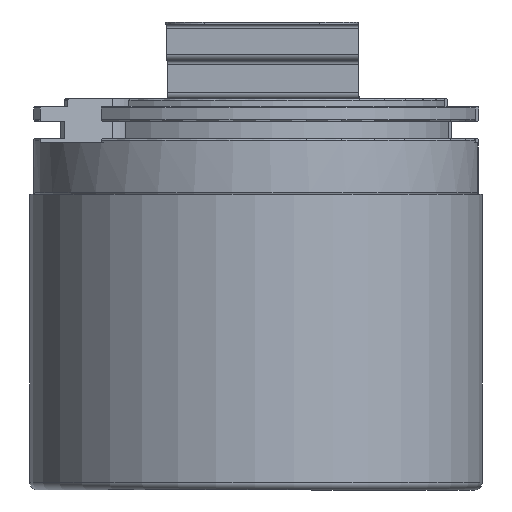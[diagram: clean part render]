
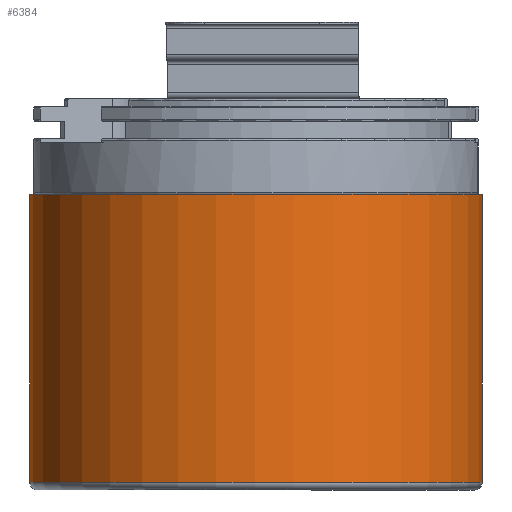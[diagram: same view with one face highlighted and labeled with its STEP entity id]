
A CAD part, front view. The second image highlights one B-rep face of the part: STEP entity #6384.
In plain terms, the highlighted cylindrical face has radius 29.455 mm (diameter 58.91 mm), a partial arc.
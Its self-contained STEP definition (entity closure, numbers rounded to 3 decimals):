
#1200 = ORIENTED_EDGE ( 'NONE', *, *, #7088, .T. ) ;
#1405 = ORIENTED_EDGE ( 'NONE', *, *, #6314, .T. ) ;
#2173 = DIRECTION ( 'NONE',  ( 0., 0., 1. ) ) ;
#2420 = CARTESIAN_POINT ( 'NONE',  ( 30.597, -0.172, -12.45 ) ) ;
#3368 = CARTESIAN_POINT ( 'NONE',  ( 1.142, -0.061, -50.95 ) ) ;
#3384 = VECTOR ( 'NONE', #3809, 1000. ) ;
#3771 = CARTESIAN_POINT ( 'NONE',  ( -28.313, 0.05, -12.45 ) ) ;
#3809 = DIRECTION ( 'NONE',  ( 0., 0., 1. ) ) ;
#3886 = CIRCLE ( 'NONE', #14762, 29.455 ) ;
#3907 = VERTEX_POINT ( 'NONE', #4503 ) ;
#4503 = CARTESIAN_POINT ( 'NONE',  ( 30.597, -0.172, -49.95 ) ) ;
#4828 = VERTEX_POINT ( 'NONE', #2420 ) ;
#5127 = CARTESIAN_POINT ( 'NONE',  ( 30.597, -0.172, -50.95 ) ) ;
#6314 = EDGE_CURVE ( 'NONE', #11254, #3907, #13866, .T. ) ;
#6384 = ADVANCED_FACE ( 'NONE', ( #14051 ), #7524, .T. ) ;
#6652 = LINE ( 'NONE', #7658, #3384 ) ;
#6904 = DIRECTION ( 'NONE',  ( -1., 0.004, 0. ) ) ;
#7088 = EDGE_CURVE ( 'NONE', #3907, #4828, #14409, .T. ) ;
#7524 = CYLINDRICAL_SURFACE ( 'NONE', #15759, 29.455 ) ;
#7658 = CARTESIAN_POINT ( 'NONE',  ( -28.313, 0.05, -50.95 ) ) ;
#8184 = CARTESIAN_POINT ( 'NONE',  ( 1.142, -0.061, -49.95 ) ) ;
#8282 = DIRECTION ( 'NONE',  ( 0., 0., 1. ) ) ;
#9419 = DIRECTION ( 'NONE',  ( 0., 0., 1. ) ) ;
#9586 = DIRECTION ( 'NONE',  ( -1., 0.004, 0. ) ) ;
#9668 = EDGE_CURVE ( 'NONE', #10850, #4828, #3886, .T. ) ;
#9731 = DIRECTION ( 'NONE',  ( -1., 0.004, 0. ) ) ;
#9964 = DIRECTION ( 'NONE',  ( 0., 0., 1. ) ) ;
#10012 = ORIENTED_EDGE ( 'NONE', *, *, #14243, .F. ) ;
#10516 = AXIS2_PLACEMENT_3D ( 'NONE', #8184, #2173, #6904 ) ;
#10564 = VECTOR ( 'NONE', #9964, 1000. ) ;
#10850 = VERTEX_POINT ( 'NONE', #3771 ) ;
#11254 = VERTEX_POINT ( 'NONE', #15527 ) ;
#11388 = ORIENTED_EDGE ( 'NONE', *, *, #9668, .F. ) ;
#11604 = EDGE_LOOP ( 'NONE', ( #1405, #1200, #11388, #10012 ) ) ;
#13866 = CIRCLE ( 'NONE', #10516, 29.455 ) ;
#14051 = FACE_OUTER_BOUND ( 'NONE', #11604, .T. ) ;
#14243 = EDGE_CURVE ( 'NONE', #11254, #10850, #6652, .T. ) ;
#14409 = LINE ( 'NONE', #5127, #10564 ) ;
#14762 = AXIS2_PLACEMENT_3D ( 'NONE', #15643, #9419, #9586 ) ;
#15527 = CARTESIAN_POINT ( 'NONE',  ( -28.313, 0.05, -49.95 ) ) ;
#15643 = CARTESIAN_POINT ( 'NONE',  ( 1.142, -0.061, -12.45 ) ) ;
#15759 = AXIS2_PLACEMENT_3D ( 'NONE', #3368, #8282, #9731 ) ;
